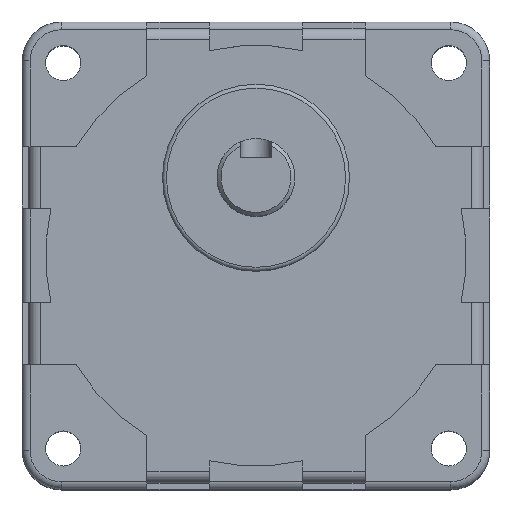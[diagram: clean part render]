
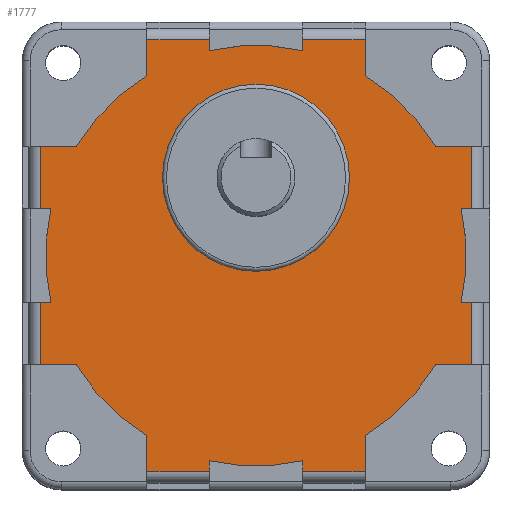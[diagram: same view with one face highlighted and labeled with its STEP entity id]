
A CAD part, top view. The second image highlights one B-rep face of the part: STEP entity #1777.
In plain terms, the highlighted planar face has unit normal (0, 0, 1).
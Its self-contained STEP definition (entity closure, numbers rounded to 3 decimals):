
#29=LINE('',#2660,#201);
#33=LINE('',#2672,#205);
#35=LINE('',#2678,#207);
#36=LINE('',#2682,#208);
#37=LINE('',#2684,#209);
#38=LINE('',#2686,#210);
#39=LINE('',#2690,#211);
#40=LINE('',#2692,#212);
#41=LINE('',#2694,#213);
#42=LINE('',#2698,#214);
#43=LINE('',#2700,#215);
#44=LINE('',#2702,#216);
#45=LINE('',#2706,#217);
#46=LINE('',#2708,#218);
#47=LINE('',#2710,#219);
#48=LINE('',#2714,#220);
#49=LINE('',#2716,#221);
#50=LINE('',#2718,#222);
#51=LINE('',#2722,#223);
#52=LINE('',#2724,#224);
#53=LINE('',#2726,#225);
#54=LINE('',#2729,#226);
#55=LINE('',#2731,#227);
#56=LINE('',#2734,#228);
#201=VECTOR('',#2113,8.);
#205=VECTOR('',#2123,8.);
#207=VECTOR('',#2129,4.613);
#208=VECTOR('',#2132,4.613);
#209=VECTOR('',#2133,8.);
#210=VECTOR('',#2134,1.375);
#211=VECTOR('',#2137,1.375);
#212=VECTOR('',#2138,8.);
#213=VECTOR('',#2139,4.613);
#214=VECTOR('',#2142,4.613);
#215=VECTOR('',#2143,8.);
#216=VECTOR('',#2144,1.375);
#217=VECTOR('',#2147,1.375);
#218=VECTOR('',#2148,8.);
#219=VECTOR('',#2149,4.613);
#220=VECTOR('',#2152,4.613);
#221=VECTOR('',#2153,8.);
#222=VECTOR('',#2154,1.375);
#223=VECTOR('',#2157,1.375);
#224=VECTOR('',#2158,8.);
#225=VECTOR('',#2159,4.613);
#226=VECTOR('',#2162,4.613);
#227=VECTOR('',#2163,1.375);
#228=VECTOR('',#2166,1.375);
#412=PLANE('',#1898);
#471=FACE_BOUND('',#606,.T.);
#494=FACE_OUTER_BOUND('',#605,.T.);
#605=EDGE_LOOP('',(#1274,#1275,#1276,#1277,#1278,#1279,#1280,#1281,#1282,
#1283,#1284,#1285,#1286,#1287,#1288,#1289,#1290,#1291,#1292,#1293,#1294,
#1295,#1296,#1297,#1298,#1299,#1300,#1301,#1302,#1303,#1304,#1305));
#606=EDGE_LOOP('',(#1306));
#727=CIRCLE('',#1899,27.);
#728=CIRCLE('',#1900,27.);
#729=CIRCLE('',#1901,27.);
#730=CIRCLE('',#1902,27.);
#731=CIRCLE('',#1903,27.);
#732=CIRCLE('',#1904,27.);
#733=CIRCLE('',#1905,27.);
#734=CIRCLE('',#1906,27.);
#735=CIRCLE('',#1907,12.);
#814=VERTEX_POINT('',#2653);
#817=VERTEX_POINT('',#2658);
#821=VERTEX_POINT('',#2669);
#822=VERTEX_POINT('',#2671);
#824=VERTEX_POINT('',#2677);
#825=VERTEX_POINT('',#2679);
#826=VERTEX_POINT('',#2681);
#827=VERTEX_POINT('',#2683);
#828=VERTEX_POINT('',#2685);
#829=VERTEX_POINT('',#2687);
#830=VERTEX_POINT('',#2689);
#831=VERTEX_POINT('',#2691);
#832=VERTEX_POINT('',#2693);
#833=VERTEX_POINT('',#2695);
#834=VERTEX_POINT('',#2697);
#835=VERTEX_POINT('',#2699);
#836=VERTEX_POINT('',#2701);
#837=VERTEX_POINT('',#2703);
#838=VERTEX_POINT('',#2705);
#839=VERTEX_POINT('',#2707);
#840=VERTEX_POINT('',#2709);
#841=VERTEX_POINT('',#2711);
#842=VERTEX_POINT('',#2713);
#843=VERTEX_POINT('',#2715);
#844=VERTEX_POINT('',#2717);
#845=VERTEX_POINT('',#2719);
#846=VERTEX_POINT('',#2721);
#847=VERTEX_POINT('',#2723);
#848=VERTEX_POINT('',#2725);
#849=VERTEX_POINT('',#2727);
#850=VERTEX_POINT('',#2730);
#851=VERTEX_POINT('',#2732);
#852=VERTEX_POINT('',#2735);
#996=EDGE_CURVE('',#817,#814,#29,.T.);
#1001=EDGE_CURVE('',#821,#822,#33,.T.);
#1004=EDGE_CURVE('',#817,#824,#35,.T.);
#1005=EDGE_CURVE('',#825,#824,#727,.T.);
#1006=EDGE_CURVE('',#826,#825,#36,.T.);
#1007=EDGE_CURVE('',#827,#826,#37,.T.);
#1008=EDGE_CURVE('',#828,#827,#38,.T.);
#1009=EDGE_CURVE('',#829,#828,#728,.T.);
#1010=EDGE_CURVE('',#829,#830,#39,.T.);
#1011=EDGE_CURVE('',#831,#830,#40,.T.);
#1012=EDGE_CURVE('',#831,#832,#41,.T.);
#1013=EDGE_CURVE('',#833,#832,#729,.T.);
#1014=EDGE_CURVE('',#834,#833,#42,.T.);
#1015=EDGE_CURVE('',#835,#834,#43,.T.);
#1016=EDGE_CURVE('',#836,#835,#44,.T.);
#1017=EDGE_CURVE('',#837,#836,#730,.T.);
#1018=EDGE_CURVE('',#837,#838,#45,.T.);
#1019=EDGE_CURVE('',#839,#838,#46,.T.);
#1020=EDGE_CURVE('',#839,#840,#47,.T.);
#1021=EDGE_CURVE('',#841,#840,#731,.T.);
#1022=EDGE_CURVE('',#842,#841,#48,.T.);
#1023=EDGE_CURVE('',#843,#842,#49,.T.);
#1024=EDGE_CURVE('',#844,#843,#50,.T.);
#1025=EDGE_CURVE('',#845,#844,#732,.T.);
#1026=EDGE_CURVE('',#845,#846,#51,.T.);
#1027=EDGE_CURVE('',#847,#846,#52,.T.);
#1028=EDGE_CURVE('',#847,#848,#53,.T.);
#1029=EDGE_CURVE('',#849,#848,#733,.T.);
#1030=EDGE_CURVE('',#822,#849,#54,.T.);
#1031=EDGE_CURVE('',#850,#821,#55,.T.);
#1032=EDGE_CURVE('',#851,#850,#734,.T.);
#1033=EDGE_CURVE('',#851,#814,#56,.T.);
#1034=EDGE_CURVE('',#852,#852,#735,.T.);
#1274=ORIENTED_EDGE('',*,*,#996,.F.);
#1275=ORIENTED_EDGE('',*,*,#1004,.T.);
#1276=ORIENTED_EDGE('',*,*,#1005,.F.);
#1277=ORIENTED_EDGE('',*,*,#1006,.F.);
#1278=ORIENTED_EDGE('',*,*,#1007,.F.);
#1279=ORIENTED_EDGE('',*,*,#1008,.F.);
#1280=ORIENTED_EDGE('',*,*,#1009,.F.);
#1281=ORIENTED_EDGE('',*,*,#1010,.T.);
#1282=ORIENTED_EDGE('',*,*,#1011,.F.);
#1283=ORIENTED_EDGE('',*,*,#1012,.T.);
#1284=ORIENTED_EDGE('',*,*,#1013,.F.);
#1285=ORIENTED_EDGE('',*,*,#1014,.F.);
#1286=ORIENTED_EDGE('',*,*,#1015,.F.);
#1287=ORIENTED_EDGE('',*,*,#1016,.F.);
#1288=ORIENTED_EDGE('',*,*,#1017,.F.);
#1289=ORIENTED_EDGE('',*,*,#1018,.T.);
#1290=ORIENTED_EDGE('',*,*,#1019,.F.);
#1291=ORIENTED_EDGE('',*,*,#1020,.T.);
#1292=ORIENTED_EDGE('',*,*,#1021,.F.);
#1293=ORIENTED_EDGE('',*,*,#1022,.F.);
#1294=ORIENTED_EDGE('',*,*,#1023,.F.);
#1295=ORIENTED_EDGE('',*,*,#1024,.F.);
#1296=ORIENTED_EDGE('',*,*,#1025,.F.);
#1297=ORIENTED_EDGE('',*,*,#1026,.T.);
#1298=ORIENTED_EDGE('',*,*,#1027,.F.);
#1299=ORIENTED_EDGE('',*,*,#1028,.T.);
#1300=ORIENTED_EDGE('',*,*,#1029,.F.);
#1301=ORIENTED_EDGE('',*,*,#1030,.F.);
#1302=ORIENTED_EDGE('',*,*,#1001,.F.);
#1303=ORIENTED_EDGE('',*,*,#1031,.F.);
#1304=ORIENTED_EDGE('',*,*,#1032,.F.);
#1305=ORIENTED_EDGE('',*,*,#1033,.T.);
#1306=ORIENTED_EDGE('',*,*,#1034,.T.);
#1777=ADVANCED_FACE('',(#494,#471),#412,.T.);
#1898=AXIS2_PLACEMENT_3D('',#2676,#2127,#2128);
#1899=AXIS2_PLACEMENT_3D('',#2680,#2130,#2131);
#1900=AXIS2_PLACEMENT_3D('',#2688,#2135,#2136);
#1901=AXIS2_PLACEMENT_3D('',#2696,#2140,#2141);
#1902=AXIS2_PLACEMENT_3D('',#2704,#2145,#2146);
#1903=AXIS2_PLACEMENT_3D('',#2712,#2150,#2151);
#1904=AXIS2_PLACEMENT_3D('',#2720,#2155,#2156);
#1905=AXIS2_PLACEMENT_3D('',#2728,#2160,#2161);
#1906=AXIS2_PLACEMENT_3D('',#2733,#2164,#2165);
#1907=AXIS2_PLACEMENT_3D('',#2736,#2167,#2168);
#2113=DIRECTION('',(0.,-1.,0.));
#2123=DIRECTION('',(0.,-1.,0.));
#2127=DIRECTION('center_axis',(0.,0.,1.));
#2128=DIRECTION('ref_axis',(1.,0.,0.));
#2129=DIRECTION('',(-1.,0.,0.));
#2130=DIRECTION('center_axis',(0.,0.,-1.));
#2131=DIRECTION('ref_axis',(-1.,0.,0.));
#2132=DIRECTION('',(0.,-1.,0.));
#2133=DIRECTION('',(1.,0.,0.));
#2134=DIRECTION('',(0.,1.,0.));
#2135=DIRECTION('center_axis',(0.,0.,-1.));
#2136=DIRECTION('ref_axis',(-1.,0.,0.));
#2137=DIRECTION('',(0.,1.,0.));
#2138=DIRECTION('',(1.,0.,0.));
#2139=DIRECTION('',(0.,-1.,0.));
#2140=DIRECTION('center_axis',(0.,0.,-1.));
#2141=DIRECTION('ref_axis',(-1.,0.,0.));
#2142=DIRECTION('',(1.,0.,0.));
#2143=DIRECTION('',(0.,1.,0.));
#2144=DIRECTION('',(-1.,0.,0.));
#2145=DIRECTION('center_axis',(0.,0.,-1.));
#2146=DIRECTION('ref_axis',(-1.,0.,0.));
#2147=DIRECTION('',(-1.,0.,0.));
#2148=DIRECTION('',(0.,1.,0.));
#2149=DIRECTION('',(1.,0.,0.));
#2150=DIRECTION('center_axis',(0.,0.,-1.));
#2151=DIRECTION('ref_axis',(-1.,0.,0.));
#2152=DIRECTION('',(0.,1.,0.));
#2153=DIRECTION('',(-1.,0.,0.));
#2154=DIRECTION('',(0.,-1.,0.));
#2155=DIRECTION('center_axis',(0.,0.,-1.));
#2156=DIRECTION('ref_axis',(-1.,0.,0.));
#2157=DIRECTION('',(0.,-1.,0.));
#2158=DIRECTION('',(-1.,0.,0.));
#2159=DIRECTION('',(0.,1.,0.));
#2160=DIRECTION('center_axis',(0.,0.,-1.));
#2161=DIRECTION('ref_axis',(-1.,0.,0.));
#2162=DIRECTION('',(-1.,0.,0.));
#2163=DIRECTION('',(1.,0.,0.));
#2164=DIRECTION('center_axis',(0.,0.,-1.));
#2165=DIRECTION('ref_axis',(-1.,0.,0.));
#2166=DIRECTION('',(1.,0.,0.));
#2167=DIRECTION('center_axis',(0.,0.,-1.));
#2168=DIRECTION('ref_axis',(1.,0.,0.));
#2653=CARTESIAN_POINT('',(27.7,6.,42.2));
#2658=CARTESIAN_POINT('',(27.7,14.,42.2));
#2660=CARTESIAN_POINT('',(27.7,7.,42.2));
#2669=CARTESIAN_POINT('',(27.7,-6.,42.2));
#2671=CARTESIAN_POINT('',(27.7,-14.,42.2));
#2672=CARTESIAN_POINT('',(27.7,-7.,42.2));
#2676=CARTESIAN_POINT('Origin',(0.,0.,42.2));
#2677=CARTESIAN_POINT('',(23.087,14.,42.2));
#2678=CARTESIAN_POINT('',(23.087,14.,42.2));
#2679=CARTESIAN_POINT('',(14.,23.087,42.2));
#2680=CARTESIAN_POINT('Origin',(0.,0.,42.2));
#2681=CARTESIAN_POINT('',(14.,27.7,42.2));
#2682=CARTESIAN_POINT('',(14.,23.087,42.2));
#2683=CARTESIAN_POINT('',(6.,27.7,42.2));
#2684=CARTESIAN_POINT('',(7.,27.7,42.2));
#2685=CARTESIAN_POINT('',(6.,26.325,42.2));
#2686=CARTESIAN_POINT('',(6.,30.,42.2));
#2687=CARTESIAN_POINT('',(-6.,26.325,42.2));
#2688=CARTESIAN_POINT('Origin',(0.,0.,42.2));
#2689=CARTESIAN_POINT('',(-6.,27.7,42.2));
#2690=CARTESIAN_POINT('',(-6.,30.,42.2));
#2691=CARTESIAN_POINT('',(-14.,27.7,42.2));
#2692=CARTESIAN_POINT('',(-7.,27.7,42.2));
#2693=CARTESIAN_POINT('',(-14.,23.087,42.2));
#2694=CARTESIAN_POINT('',(-14.,23.087,42.2));
#2695=CARTESIAN_POINT('',(-23.087,14.,42.2));
#2696=CARTESIAN_POINT('Origin',(0.,0.,42.2));
#2697=CARTESIAN_POINT('',(-27.7,14.,42.2));
#2698=CARTESIAN_POINT('',(-23.087,14.,42.2));
#2699=CARTESIAN_POINT('',(-27.7,6.,42.2));
#2700=CARTESIAN_POINT('',(-27.7,7.,42.2));
#2701=CARTESIAN_POINT('',(-26.325,6.,42.2));
#2702=CARTESIAN_POINT('',(-30.,6.,42.2));
#2703=CARTESIAN_POINT('',(-26.325,-6.,42.2));
#2704=CARTESIAN_POINT('Origin',(0.,0.,42.2));
#2705=CARTESIAN_POINT('',(-27.7,-6.,42.2));
#2706=CARTESIAN_POINT('',(-30.,-6.,42.2));
#2707=CARTESIAN_POINT('',(-27.7,-14.,42.2));
#2708=CARTESIAN_POINT('',(-27.7,-7.,42.2));
#2709=CARTESIAN_POINT('',(-23.087,-14.,42.2));
#2710=CARTESIAN_POINT('',(-23.087,-14.,42.2));
#2711=CARTESIAN_POINT('',(-14.,-23.087,42.2));
#2712=CARTESIAN_POINT('Origin',(0.,0.,42.2));
#2713=CARTESIAN_POINT('',(-14.,-27.7,42.2));
#2714=CARTESIAN_POINT('',(-14.,-23.087,42.2));
#2715=CARTESIAN_POINT('',(-6.,-27.7,42.2));
#2716=CARTESIAN_POINT('',(-7.,-27.7,42.2));
#2717=CARTESIAN_POINT('',(-6.,-26.325,42.2));
#2718=CARTESIAN_POINT('',(-6.,-30.,42.2));
#2719=CARTESIAN_POINT('',(6.,-26.325,42.2));
#2720=CARTESIAN_POINT('Origin',(0.,0.,42.2));
#2721=CARTESIAN_POINT('',(6.,-27.7,42.2));
#2722=CARTESIAN_POINT('',(6.,-30.,42.2));
#2723=CARTESIAN_POINT('',(14.,-27.7,42.2));
#2724=CARTESIAN_POINT('',(7.,-27.7,42.2));
#2725=CARTESIAN_POINT('',(14.,-23.087,42.2));
#2726=CARTESIAN_POINT('',(14.,-23.087,42.2));
#2727=CARTESIAN_POINT('',(23.087,-14.,42.2));
#2728=CARTESIAN_POINT('Origin',(0.,0.,42.2));
#2729=CARTESIAN_POINT('',(23.087,-14.,42.2));
#2730=CARTESIAN_POINT('',(26.325,-6.,42.2));
#2731=CARTESIAN_POINT('',(30.,-6.,42.2));
#2732=CARTESIAN_POINT('',(26.325,6.,42.2));
#2733=CARTESIAN_POINT('Origin',(0.,0.,42.2));
#2734=CARTESIAN_POINT('',(30.,6.,42.2));
#2735=CARTESIAN_POINT('',(-12.,10.,42.2));
#2736=CARTESIAN_POINT('Origin',(0.,10.,42.2));
